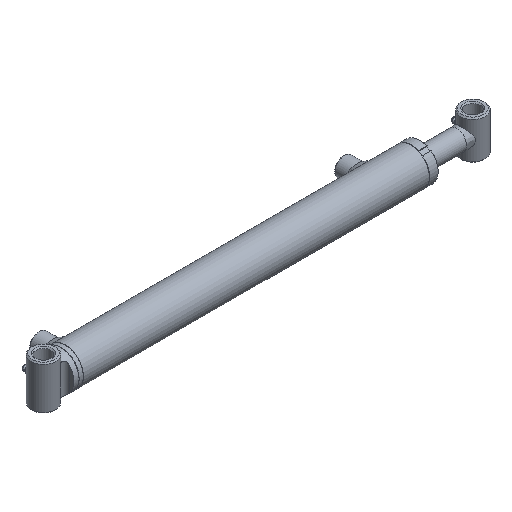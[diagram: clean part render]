
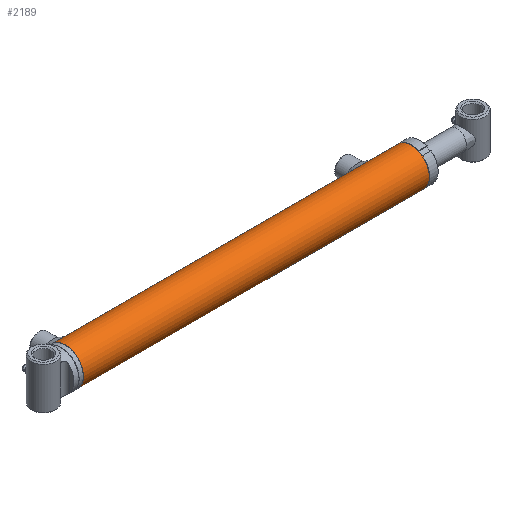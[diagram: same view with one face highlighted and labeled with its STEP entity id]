
A CAD part, isometric view. The second image highlights one B-rep face of the part: STEP entity #2189.
In plain terms, the highlighted cylindrical face has radius 23.812 mm (diameter 47.625 mm), a full revolution.
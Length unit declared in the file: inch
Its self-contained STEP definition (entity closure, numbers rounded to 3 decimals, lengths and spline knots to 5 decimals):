
#387=FACE_BOUND('',#697,.T.);
#388=FACE_BOUND('',#698,.T.);
#389=FACE_BOUND('',#699,.T.);
#509=FACE_OUTER_BOUND('',#696,.T.);
#696=EDGE_LOOP('',(#1677));
#697=EDGE_LOOP('',(#1678));
#698=EDGE_LOOP('',(#1679));
#699=EDGE_LOOP('',(#1680));
#933=CIRCLE('',#2369,0.9375);
#937=CIRCLE('',#2377,0.9375);
#1070=B_SPLINE_CURVE_WITH_KNOTS('',3,(#4765,#4766,#4767,#4768,#4769,#4770,
#4771,#4772,#4773,#4774,#4775,#4776,#4777,#4778,#4779,#4780,#4781,#4782,
#4783,#4784,#4785,#4786,#4787,#4788,#4789,#4790,#4791,#4792,#4793,#4794,
#4795,#4796,#4797,#4798),.UNSPECIFIED.,.T.,.F.,(4,2,2,2,2,2,2,2,2,2,2,2,
2,2,2,2,4),(0.,0.18896,0.37791,0.56686,0.7558,
0.94474,1.13369,1.32264,1.5116,1.70055,
1.88951,2.07845,2.2674,2.45634,2.64528,
2.83424,3.0232),.UNSPECIFIED.);
#1072=B_SPLINE_CURVE_WITH_KNOTS('',3,(#4968,#4969,#4970,#4971,#4972,#4973,
#4974,#4975,#4976,#4977,#4978,#4979,#4980,#4981,#4982,#4983,#4984,#4985,
#4986,#4987,#4988,#4989,#4990,#4991,#4992,#4993,#4994,#4995,#4996,#4997,
#4998,#4999,#5000,#5001),.UNSPECIFIED.,.T.,.F.,(4,2,2,2,2,2,2,2,2,2,2,2,
2,2,2,2,4),(0.,0.18896,0.37791,0.56686,0.7558,
0.94474,1.13369,1.32264,1.5116,1.70055,
1.88951,2.07845,2.2674,2.45634,2.64528,
2.83424,3.0232),.UNSPECIFIED.);
#1126=VERTEX_POINT('',#4764);
#1128=VERTEX_POINT('',#4967);
#1132=VERTEX_POINT('',#5011);
#1136=VERTEX_POINT('',#5023);
#1345=EDGE_CURVE('',#1126,#1126,#1070,.T.);
#1348=EDGE_CURVE('',#1128,#1128,#1072,.T.);
#1352=EDGE_CURVE('',#1132,#1132,#933,.T.);
#1356=EDGE_CURVE('',#1136,#1136,#937,.T.);
#1677=ORIENTED_EDGE('',*,*,#1356,.T.);
#1678=ORIENTED_EDGE('',*,*,#1345,.T.);
#1679=ORIENTED_EDGE('',*,*,#1348,.T.);
#1680=ORIENTED_EDGE('',*,*,#1352,.F.);
#2120=CYLINDRICAL_SURFACE('',#2379,0.9375);
#2189=ADVANCED_FACE('',(#509,#387,#388,#389),#2120,.T.);
#2369=AXIS2_PLACEMENT_3D('',#5012,#2714,#2715);
#2377=AXIS2_PLACEMENT_3D('',#5024,#2730,#2731);
#2379=AXIS2_PLACEMENT_3D('',#5026,#2734,#2735);
#2714=DIRECTION('center_axis',(1.,0.,0.));
#2715=DIRECTION('ref_axis',(0.,-1.,0.));
#2730=DIRECTION('center_axis',(1.,0.,0.));
#2731=DIRECTION('ref_axis',(0.,-1.,0.));
#2734=DIRECTION('center_axis',(1.,0.,0.));
#2735=DIRECTION('ref_axis',(0.,-1.,0.));
#4764=CARTESIAN_POINT('',(7.22195,0.9166,-0.19685));
#4765=CARTESIAN_POINT('Ctrl Pts',(7.22195,0.9166,-0.19685));
#4766=CARTESIAN_POINT('Ctrl Pts',(7.24675,0.9166,-0.19685));
#4767=CARTESIAN_POINT('Ctrl Pts',(7.27314,0.91771,-0.19188));
#4768=CARTESIAN_POINT('Ctrl Pts',(7.32162,0.92169,-0.17177));
#4769=CARTESIAN_POINT('Ctrl Pts',(7.34371,0.92449,-0.15663));
#4770=CARTESIAN_POINT('Ctrl Pts',(7.37858,0.92973,-0.12176));
#4771=CARTESIAN_POINT('Ctrl Pts',(7.39372,0.9325,-0.09967));
#4772=CARTESIAN_POINT('Ctrl Pts',(7.41383,0.93642,-0.05119));
#4773=CARTESIAN_POINT('Ctrl Pts',(7.4188,0.9375,-0.0248));
#4774=CARTESIAN_POINT('Ctrl Pts',(7.4188,0.9375,0.0248));
#4775=CARTESIAN_POINT('Ctrl Pts',(7.41383,0.93642,0.05119));
#4776=CARTESIAN_POINT('Ctrl Pts',(7.39372,0.9325,0.09967));
#4777=CARTESIAN_POINT('Ctrl Pts',(7.37858,0.92973,0.12176));
#4778=CARTESIAN_POINT('Ctrl Pts',(7.34371,0.92449,0.15663));
#4779=CARTESIAN_POINT('Ctrl Pts',(7.32162,0.92169,0.17177));
#4780=CARTESIAN_POINT('Ctrl Pts',(7.27314,0.91771,0.19188));
#4781=CARTESIAN_POINT('Ctrl Pts',(7.24675,0.9166,0.19685));
#4782=CARTESIAN_POINT('Ctrl Pts',(7.19715,0.9166,0.19685));
#4783=CARTESIAN_POINT('Ctrl Pts',(7.17075,0.91771,0.19188));
#4784=CARTESIAN_POINT('Ctrl Pts',(7.12228,0.92169,0.17177));
#4785=CARTESIAN_POINT('Ctrl Pts',(7.10019,0.92449,0.15663));
#4786=CARTESIAN_POINT('Ctrl Pts',(7.06532,0.92973,0.12176));
#4787=CARTESIAN_POINT('Ctrl Pts',(7.05018,0.9325,0.09967));
#4788=CARTESIAN_POINT('Ctrl Pts',(7.03007,0.93642,0.05119));
#4789=CARTESIAN_POINT('Ctrl Pts',(7.0251,0.9375,0.0248));
#4790=CARTESIAN_POINT('Ctrl Pts',(7.0251,0.9375,-0.0248));
#4791=CARTESIAN_POINT('Ctrl Pts',(7.03007,0.93642,-0.05119));
#4792=CARTESIAN_POINT('Ctrl Pts',(7.05018,0.9325,-0.09967));
#4793=CARTESIAN_POINT('Ctrl Pts',(7.06532,0.92973,-0.12176));
#4794=CARTESIAN_POINT('Ctrl Pts',(7.10019,0.92449,-0.15663));
#4795=CARTESIAN_POINT('Ctrl Pts',(7.12228,0.92169,-0.17177));
#4796=CARTESIAN_POINT('Ctrl Pts',(7.17075,0.91771,-0.19188));
#4797=CARTESIAN_POINT('Ctrl Pts',(7.19715,0.9166,-0.19685));
#4798=CARTESIAN_POINT('Ctrl Pts',(7.22195,0.9166,-0.19685));
#4967=CARTESIAN_POINT('',(-8.40305,0.9166,-0.19685));
#4968=CARTESIAN_POINT('Ctrl Pts',(-8.40305,0.9166,-0.19685));
#4969=CARTESIAN_POINT('Ctrl Pts',(-8.37825,0.9166,-0.19685));
#4970=CARTESIAN_POINT('Ctrl Pts',(-8.35186,0.91771,-0.19188));
#4971=CARTESIAN_POINT('Ctrl Pts',(-8.30338,0.92169,-0.17177));
#4972=CARTESIAN_POINT('Ctrl Pts',(-8.28129,0.92449,-0.15663));
#4973=CARTESIAN_POINT('Ctrl Pts',(-8.24642,0.92973,-0.12176));
#4974=CARTESIAN_POINT('Ctrl Pts',(-8.23128,0.9325,-0.09967));
#4975=CARTESIAN_POINT('Ctrl Pts',(-8.21117,0.93642,-0.05119));
#4976=CARTESIAN_POINT('Ctrl Pts',(-8.2062,0.9375,-0.0248));
#4977=CARTESIAN_POINT('Ctrl Pts',(-8.2062,0.9375,0.0248));
#4978=CARTESIAN_POINT('Ctrl Pts',(-8.21117,0.93642,0.05119));
#4979=CARTESIAN_POINT('Ctrl Pts',(-8.23128,0.9325,0.09967));
#4980=CARTESIAN_POINT('Ctrl Pts',(-8.24642,0.92973,0.12176));
#4981=CARTESIAN_POINT('Ctrl Pts',(-8.28129,0.92449,0.15663));
#4982=CARTESIAN_POINT('Ctrl Pts',(-8.30338,0.92169,0.17177));
#4983=CARTESIAN_POINT('Ctrl Pts',(-8.35186,0.91771,0.19188));
#4984=CARTESIAN_POINT('Ctrl Pts',(-8.37825,0.9166,0.19685));
#4985=CARTESIAN_POINT('Ctrl Pts',(-8.42785,0.9166,0.19685));
#4986=CARTESIAN_POINT('Ctrl Pts',(-8.45425,0.91771,0.19188));
#4987=CARTESIAN_POINT('Ctrl Pts',(-8.50272,0.92169,0.17177));
#4988=CARTESIAN_POINT('Ctrl Pts',(-8.52481,0.92449,0.15663));
#4989=CARTESIAN_POINT('Ctrl Pts',(-8.55968,0.92973,0.12176));
#4990=CARTESIAN_POINT('Ctrl Pts',(-8.57482,0.9325,0.09967));
#4991=CARTESIAN_POINT('Ctrl Pts',(-8.59493,0.93642,0.05119));
#4992=CARTESIAN_POINT('Ctrl Pts',(-8.5999,0.9375,0.0248));
#4993=CARTESIAN_POINT('Ctrl Pts',(-8.5999,0.9375,-0.0248));
#4994=CARTESIAN_POINT('Ctrl Pts',(-8.59493,0.93642,-0.05119));
#4995=CARTESIAN_POINT('Ctrl Pts',(-8.57482,0.9325,-0.09967));
#4996=CARTESIAN_POINT('Ctrl Pts',(-8.55968,0.92973,-0.12176));
#4997=CARTESIAN_POINT('Ctrl Pts',(-8.52481,0.92449,-0.15663));
#4998=CARTESIAN_POINT('Ctrl Pts',(-8.50272,0.92169,-0.17177));
#4999=CARTESIAN_POINT('Ctrl Pts',(-8.45425,0.91771,-0.19188));
#5000=CARTESIAN_POINT('Ctrl Pts',(-8.42785,0.9166,-0.19685));
#5001=CARTESIAN_POINT('Ctrl Pts',(-8.40305,0.9166,-0.19685));
#5011=CARTESIAN_POINT('',(8.95423,0.9375,0.));
#5012=CARTESIAN_POINT('Origin',(8.95423,0.,0.));
#5023=CARTESIAN_POINT('',(-8.78445,0.9375,0.));
#5024=CARTESIAN_POINT('Origin',(-8.78445,0.,0.));
#5026=CARTESIAN_POINT('Origin',(0.,0.,0.));
